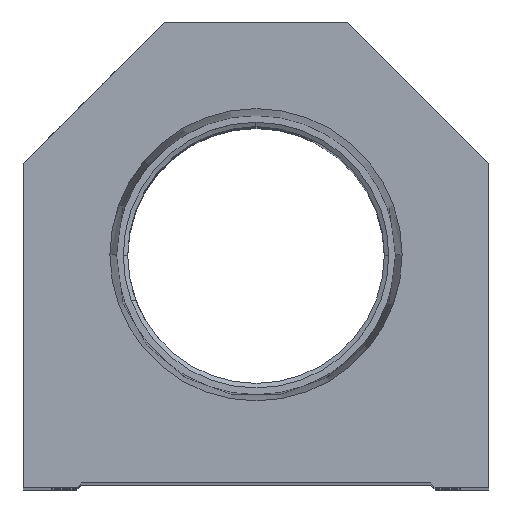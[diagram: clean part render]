
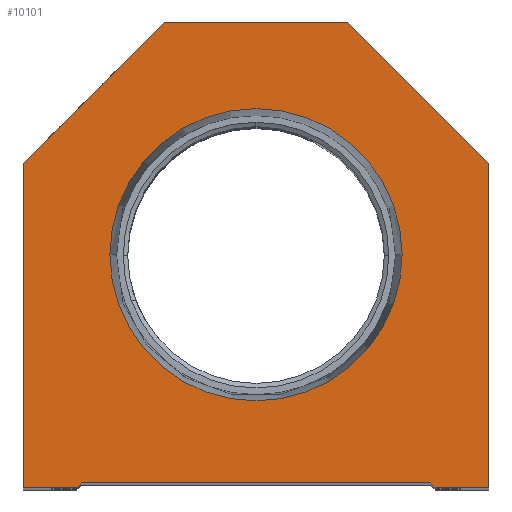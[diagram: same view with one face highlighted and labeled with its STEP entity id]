
A CAD part, top view. The second image highlights one B-rep face of the part: STEP entity #10101.
In plain terms, the highlighted planar face has unit normal (0, 0, 1).
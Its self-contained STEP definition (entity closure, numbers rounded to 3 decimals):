
#387 = DIRECTION ( 'NONE',  ( 0.707, 0.707, 0. ) ) ;
#821 = CARTESIAN_POINT ( 'NONE',  ( -25.4, 0., 0. ) ) ;
#915 = CARTESIAN_POINT ( 'NONE',  ( 9.775, 9.775, 0. ) ) ;
#1095 = CARTESIAN_POINT ( 'NONE',  ( 19.05, 0.5, 0. ) ) ;
#1696 = CARTESIAN_POINT ( 'NONE',  ( 10., 50.8, 0. ) ) ;
#1739 = VERTEX_POINT ( 'NONE', #10525 ) ;
#2147 = ORIENTED_EDGE ( 'NONE', *, *, #5892, .T. ) ;
#2718 = CARTESIAN_POINT ( 'NONE',  ( -19.05, 0.5, 0. ) ) ;
#2836 = VECTOR ( 'NONE', #10943, 1000. ) ;
#3011 = LINE ( 'NONE', #16380, #18687 ) ;
#3062 = CARTESIAN_POINT ( 'NONE',  ( -25.4, 35.4, 0. ) ) ;
#3409 = VECTOR ( 'NONE', #3537, 1000. ) ;
#3537 = DIRECTION ( 'NONE',  ( 1., 0., 0. ) ) ;
#3630 = CARTESIAN_POINT ( 'NONE',  ( 0., 0., 0. ) ) ;
#4598 = CARTESIAN_POINT ( 'NONE',  ( -25.4, 35.4, 0. ) ) ;
#4965 = FACE_OUTER_BOUND ( 'NONE', #6700, .T. ) ;
#4986 = ORIENTED_EDGE ( 'NONE', *, *, #5961, .T. ) ;
#5180 = VERTEX_POINT ( 'NONE', #11712 ) ;
#5275 = VERTEX_POINT ( 'NONE', #1696 ) ;
#5780 = LINE ( 'NONE', #2718, #7302 ) ;
#5836 = CARTESIAN_POINT ( 'NONE',  ( 15.947, 25.4, 0. ) ) ;
#5874 = EDGE_CURVE ( 'NONE', #16932, #14519, #5780, .T. ) ;
#5892 = EDGE_CURVE ( 'NONE', #7080, #5275, #3011, .T. ) ;
#5961 = EDGE_CURVE ( 'NONE', #18120, #5180, #11916, .T. ) ;
#6563 = VERTEX_POINT ( 'NONE', #12900 ) ;
#6617 = CARTESIAN_POINT ( 'NONE',  ( 19.05, 0., 0. ) ) ;
#6700 = EDGE_LOOP ( 'NONE', ( #4986, #16139, #8184, #10409, #10422, #11183, #2147, #14673, #13593, #6778 ) ) ;
#6708 = DIRECTION ( 'NONE',  ( 0., -1., 0. ) ) ;
#6778 = ORIENTED_EDGE ( 'NONE', *, *, #17279, .T. ) ;
#6838 = VERTEX_POINT ( 'NONE', #8552 ) ;
#7080 = VERTEX_POINT ( 'NONE', #12142 ) ;
#7302 = VECTOR ( 'NONE', #17549, 1000. ) ;
#8010 = EDGE_CURVE ( 'NONE', #12168, #16498, #14650, .T. ) ;
#8184 = ORIENTED_EDGE ( 'NONE', *, *, #5874, .T. ) ;
#8479 = EDGE_CURVE ( 'NONE', #6563, #14031, #16158, .T. ) ;
#8515 = VECTOR ( 'NONE', #17812, 1000. ) ;
#8540 = EDGE_CURVE ( 'NONE', #5275, #6563, #15065, .T. ) ;
#8552 = CARTESIAN_POINT ( 'NONE',  ( 25.4, 0., 0. ) ) ;
#8720 = AXIS2_PLACEMENT_3D ( 'NONE', #3630, #12476, #13725 ) ;
#9055 = DIRECTION ( 'NONE',  ( 0., 0., 1. ) ) ;
#9083 = VECTOR ( 'NONE', #17696, 1000. ) ;
#10101 = ADVANCED_FACE ( 'NONE', ( #15278, #4965 ), #12178, .T. ) ;
#10409 = ORIENTED_EDGE ( 'NONE', *, *, #13515, .T. ) ;
#10422 = ORIENTED_EDGE ( 'NONE', *, *, #13406, .T. ) ;
#10514 = VECTOR ( 'NONE', #6708, 1000. ) ;
#10525 = CARTESIAN_POINT ( 'NONE',  ( 19.55, 0., 0. ) ) ;
#10943 = DIRECTION ( 'NONE',  ( 0., 1., 0. ) ) ;
#11183 = ORIENTED_EDGE ( 'NONE', *, *, #16690, .T. ) ;
#11545 = VECTOR ( 'NONE', #16726, 1000. ) ;
#11712 = CARTESIAN_POINT ( 'NONE',  ( -19.55, 0., 0. ) ) ;
#11916 = LINE ( 'NONE', #12108, #8515 ) ;
#12049 = CARTESIAN_POINT ( 'NONE',  ( -25.4, 0., 0. ) ) ;
#12108 = CARTESIAN_POINT ( 'NONE',  ( -19.05, 0., 0. ) ) ;
#12121 = DIRECTION ( 'NONE',  ( 1., 0., 0. ) ) ;
#12142 = CARTESIAN_POINT ( 'NONE',  ( 25.4, 35.4, 0. ) ) ;
#12168 = VERTEX_POINT ( 'NONE', #5836 ) ;
#12178 = PLANE ( 'NONE',  #8720 ) ;
#12360 = CIRCLE ( 'NONE', #16096, 15.947 ) ;
#12361 = CARTESIAN_POINT ( 'NONE',  ( 10., 50.8, 0. ) ) ;
#12382 = LINE ( 'NONE', #13435, #2836 ) ;
#12446 = EDGE_LOOP ( 'NONE', ( #13539, #18219 ) ) ;
#12476 = DIRECTION ( 'NONE',  ( 0., 0., 1. ) ) ;
#12595 = VECTOR ( 'NONE', #387, 1000. ) ;
#12602 = EDGE_CURVE ( 'NONE', #5180, #16932, #13572, .T. ) ;
#12900 = CARTESIAN_POINT ( 'NONE',  ( -10., 50.8, 0. ) ) ;
#13161 = CARTESIAN_POINT ( 'NONE',  ( -15.947, 25.4, 0. ) ) ;
#13230 = VECTOR ( 'NONE', #15859, 1000. ) ;
#13366 = CARTESIAN_POINT ( 'NONE',  ( 0., 25.4, 0. ) ) ;
#13406 = EDGE_CURVE ( 'NONE', #1739, #6838, #15185, .T. ) ;
#13435 = CARTESIAN_POINT ( 'NONE',  ( 25.4, 0., 0. ) ) ;
#13515 = EDGE_CURVE ( 'NONE', #14519, #1739, #17309, .T. ) ;
#13539 = ORIENTED_EDGE ( 'NONE', *, *, #8010, .F. ) ;
#13572 = LINE ( 'NONE', #14493, #12595 ) ;
#13593 = ORIENTED_EDGE ( 'NONE', *, *, #8479, .T. ) ;
#13604 = DIRECTION ( 'NONE',  ( 1., 0., 0. ) ) ;
#13725 = DIRECTION ( 'NONE',  ( 1., 0., 0. ) ) ;
#14014 = LINE ( 'NONE', #821, #10514 ) ;
#14031 = VERTEX_POINT ( 'NONE', #4598 ) ;
#14390 = EDGE_CURVE ( 'NONE', #16498, #12168, #12360, .T. ) ;
#14493 = CARTESIAN_POINT ( 'NONE',  ( -9.775, 9.775, 0. ) ) ;
#14519 = VERTEX_POINT ( 'NONE', #1095 ) ;
#14650 = CIRCLE ( 'NONE', #15571, 15.947 ) ;
#14673 = ORIENTED_EDGE ( 'NONE', *, *, #8540, .T. ) ;
#15065 = LINE ( 'NONE', #12361, #11545 ) ;
#15185 = LINE ( 'NONE', #6617, #3409 ) ;
#15278 = FACE_BOUND ( 'NONE', #12446, .T. ) ;
#15571 = AXIS2_PLACEMENT_3D ( 'NONE', #13366, #9055, #12121 ) ;
#15859 = DIRECTION ( 'NONE',  ( 0.707, -0.707, 0. ) ) ;
#16096 = AXIS2_PLACEMENT_3D ( 'NONE', #16618, #18357, #13604 ) ;
#16139 = ORIENTED_EDGE ( 'NONE', *, *, #12602, .T. ) ;
#16158 = LINE ( 'NONE', #3062, #9083 ) ;
#16380 = CARTESIAN_POINT ( 'NONE',  ( 25.4, 35.4, 0. ) ) ;
#16498 = VERTEX_POINT ( 'NONE', #13161 ) ;
#16618 = CARTESIAN_POINT ( 'NONE',  ( 0., 25.4, 0. ) ) ;
#16660 = DIRECTION ( 'NONE',  ( -0.707, 0.707, 0. ) ) ;
#16690 = EDGE_CURVE ( 'NONE', #6838, #7080, #12382, .T. ) ;
#16725 = CARTESIAN_POINT ( 'NONE',  ( -19.05, 0.5, 0. ) ) ;
#16726 = DIRECTION ( 'NONE',  ( -1., 0., 0. ) ) ;
#16932 = VERTEX_POINT ( 'NONE', #16725 ) ;
#17279 = EDGE_CURVE ( 'NONE', #14031, #18120, #14014, .T. ) ;
#17309 = LINE ( 'NONE', #915, #13230 ) ;
#17549 = DIRECTION ( 'NONE',  ( 1., 0., 0. ) ) ;
#17696 = DIRECTION ( 'NONE',  ( -0.707, -0.707, 0. ) ) ;
#17812 = DIRECTION ( 'NONE',  ( 1., 0., 0. ) ) ;
#18120 = VERTEX_POINT ( 'NONE', #12049 ) ;
#18219 = ORIENTED_EDGE ( 'NONE', *, *, #14390, .F. ) ;
#18357 = DIRECTION ( 'NONE',  ( 0., 0., 1. ) ) ;
#18687 = VECTOR ( 'NONE', #16660, 1000. ) ;
